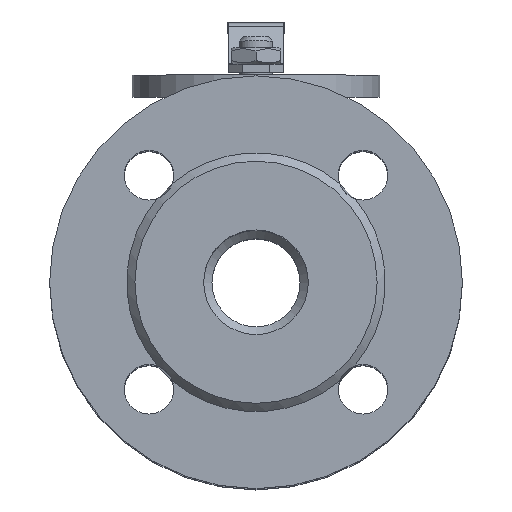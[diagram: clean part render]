
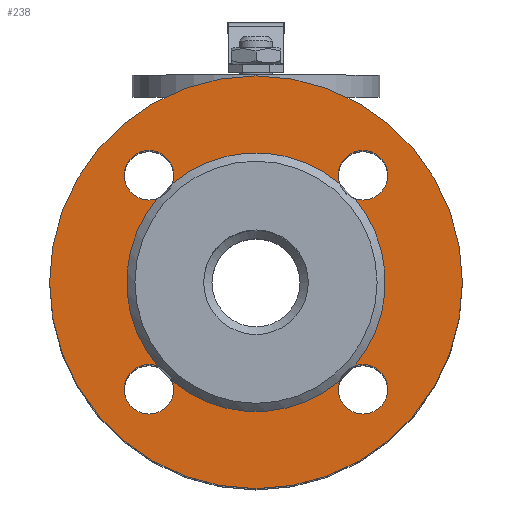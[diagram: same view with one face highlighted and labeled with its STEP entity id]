
A CAD part, top view. The second image highlights one B-rep face of the part: STEP entity #238.
In plain terms, the highlighted planar face has unit normal (0, 0, 1).
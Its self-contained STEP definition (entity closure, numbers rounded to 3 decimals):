
#238=ADVANCED_FACE('',(#2290,#2292),#2294,.F.);
#2290=FACE_BOUND('',#2291,.T.);
#2291=EDGE_LOOP('',(#23350));
#2292=FACE_BOUND('',#2293,.T.);
#2293=EDGE_LOOP('',(#23351,#23352,#23353,#23354,#23355,#23356,#23357,#23358));
#2294=PLANE('',#2295);
#2295=AXIS2_PLACEMENT_3D('',#2296,#2297,#2298);
#2296=CARTESIAN_POINT('',(0.,47.,137.));
#2297=DIRECTION('',(0.,0.,-1.));
#2298=DIRECTION('',(-1.,0.,0.));
#23350=ORIENTED_EDGE('',*,*,#28266,.T.);
#23351=ORIENTED_EDGE('',*,*,#28267,.F.);
#23352=ORIENTED_EDGE('',*,*,#28229,.F.);
#23353=ORIENTED_EDGE('',*,*,#28268,.F.);
#23354=ORIENTED_EDGE('',*,*,#28227,.F.);
#23355=ORIENTED_EDGE('',*,*,#28269,.F.);
#23356=ORIENTED_EDGE('',*,*,#28225,.F.);
#23357=ORIENTED_EDGE('',*,*,#28270,.F.);
#23358=ORIENTED_EDGE('',*,*,#28223,.F.);
#28223=EDGE_CURVE('',#30458,#30461,#30462,.T.);
#28225=EDGE_CURVE('',#30463,#30465,#30466,.T.);
#28227=EDGE_CURVE('',#30467,#30469,#30470,.T.);
#28229=EDGE_CURVE('',#30471,#30459,#30473,.T.);
#28266=EDGE_CURVE('',#30542,#30542,#30543,.T.);
#28267=EDGE_CURVE('',#30459,#30458,#30544,.T.);
#28268=EDGE_CURVE('',#30469,#30471,#30545,.T.);
#28269=EDGE_CURVE('',#30465,#30467,#30546,.T.);
#28270=EDGE_CURVE('',#30461,#30463,#30547,.T.);
#30458=VERTEX_POINT('',#46550);
#30459=VERTEX_POINT('',#46551);
#30461=VERTEX_POINT('',#46635);
#30462=CIRCLE('',#46636,47.);
#30463=VERTEX_POINT('',#46640);
#30465=VERTEX_POINT('',#46724);
#30466=CIRCLE('',#46725,47.);
#30467=VERTEX_POINT('',#46729);
#30469=VERTEX_POINT('',#46813);
#30470=CIRCLE('',#46814,47.);
#30471=VERTEX_POINT('',#46818);
#30473=CIRCLE('',#46902,47.);
#30542=VERTEX_POINT('',#47398);
#30543=CIRCLE('',#47399,75.);
#30544=CIRCLE('',#47403,9.);
#30545=CIRCLE('',#47407,9.);
#30546=CIRCLE('',#47411,9.);
#30547=CIRCLE('',#47415,9.);
#46550=CARTESIAN_POINT('',(30.432,35.818,137.));
#46551=CARTESIAN_POINT('',(35.818,30.432,137.));
#46635=CARTESIAN_POINT('',(-30.432,35.818,137.));
#46636=AXIS2_PLACEMENT_3D('',#46637,#46638,#46639);
#46637=CARTESIAN_POINT('',(0.,0.,137.));
#46638=DIRECTION('',(0.,0.,1.));
#46639=DIRECTION('',(0.647,0.762,0.));
#46640=CARTESIAN_POINT('',(-35.818,30.432,137.));
#46724=CARTESIAN_POINT('',(-35.818,-30.432,137.));
#46725=AXIS2_PLACEMENT_3D('',#46726,#46727,#46728);
#46726=CARTESIAN_POINT('',(0.,0.,137.));
#46727=DIRECTION('',(0.,0.,1.));
#46728=DIRECTION('',(-0.762,0.647,0.));
#46729=CARTESIAN_POINT('',(-30.432,-35.818,137.));
#46813=CARTESIAN_POINT('',(30.432,-35.818,137.));
#46814=AXIS2_PLACEMENT_3D('',#46815,#46816,#46817);
#46815=CARTESIAN_POINT('',(0.,0.,137.));
#46816=DIRECTION('',(0.,0.,1.));
#46817=DIRECTION('',(-0.647,-0.762,0.));
#46818=CARTESIAN_POINT('',(35.818,-30.432,137.));
#46902=AXIS2_PLACEMENT_3D('',#46903,#46904,#46905);
#46903=CARTESIAN_POINT('',(0.,0.,137.));
#46904=DIRECTION('',(0.,0.,1.));
#46905=DIRECTION('',(0.762,-0.647,0.));
#47398=CARTESIAN_POINT('',(75.,0.,137.));
#47399=AXIS2_PLACEMENT_3D('',#47400,#47401,#47402);
#47400=CARTESIAN_POINT('',(0.,0.,137.));
#47401=DIRECTION('',(0.,0.,1.));
#47402=DIRECTION('',(1.,0.,0.));
#47403=AXIS2_PLACEMENT_3D('',#47404,#47405,#47406);
#47404=CARTESIAN_POINT('',(38.891,38.891,137.));
#47405=DIRECTION('',(0.,0.,1.));
#47406=DIRECTION('',(-0.341,-0.94,0.));
#47407=AXIS2_PLACEMENT_3D('',#47408,#47409,#47410);
#47408=CARTESIAN_POINT('',(38.891,-38.891,137.));
#47409=DIRECTION('',(0.,0.,1.));
#47410=DIRECTION('',(-0.94,0.341,0.));
#47411=AXIS2_PLACEMENT_3D('',#47412,#47413,#47414);
#47412=CARTESIAN_POINT('',(-38.891,-38.891,137.));
#47413=DIRECTION('',(0.,0.,1.));
#47414=DIRECTION('',(0.341,0.94,0.));
#47415=AXIS2_PLACEMENT_3D('',#47416,#47417,#47418);
#47416=CARTESIAN_POINT('',(-38.891,38.891,137.));
#47417=DIRECTION('',(0.,0.,1.));
#47418=DIRECTION('',(0.94,-0.341,0.));
